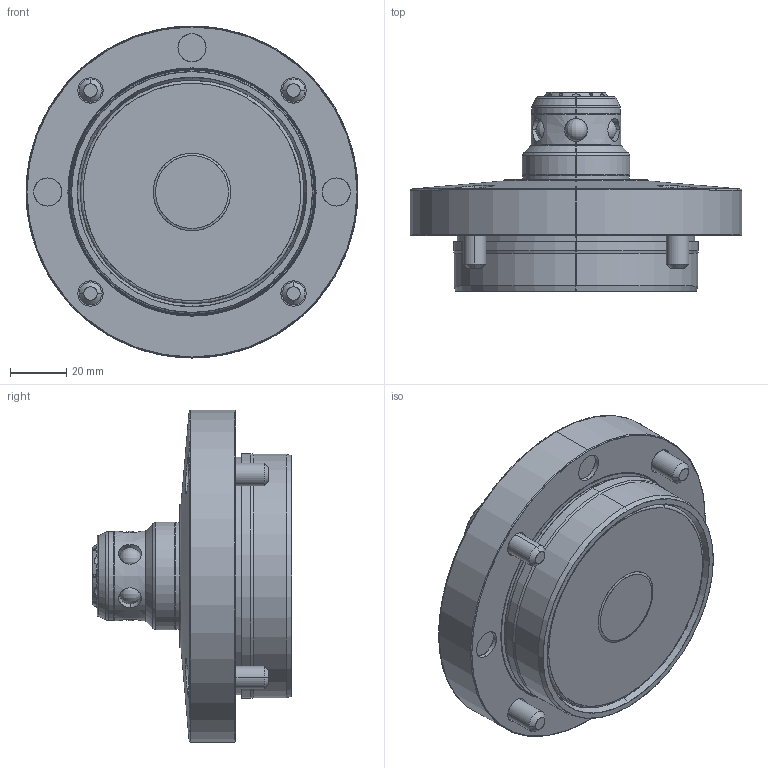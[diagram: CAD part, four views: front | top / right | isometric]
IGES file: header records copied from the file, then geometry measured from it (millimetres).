
Start section: SolidWorks IGES file using analytic representation for surfaces
Global section: file name: C:\Documents and Settings\D211\デスクトップ\IGES・STEP203変換用中間ﾌｫﾙﾀﾞ\SWT0080-MG.igs; native system: SolidWorks 2009; preprocessor: SolidWorks 2009; author: D211; date: 100804.162459; units: millimetre
Bounding box: 118.5 x 71.2 x 118.5 mm (x, y, z)
Surface area: 67484.4 mm2 (no closed solid volume)
Topology: 0 solids, 0 shells, 298 faces, 5289 edges, 5269 vertices
Faces by surface type: revolution 193, bspline 105
